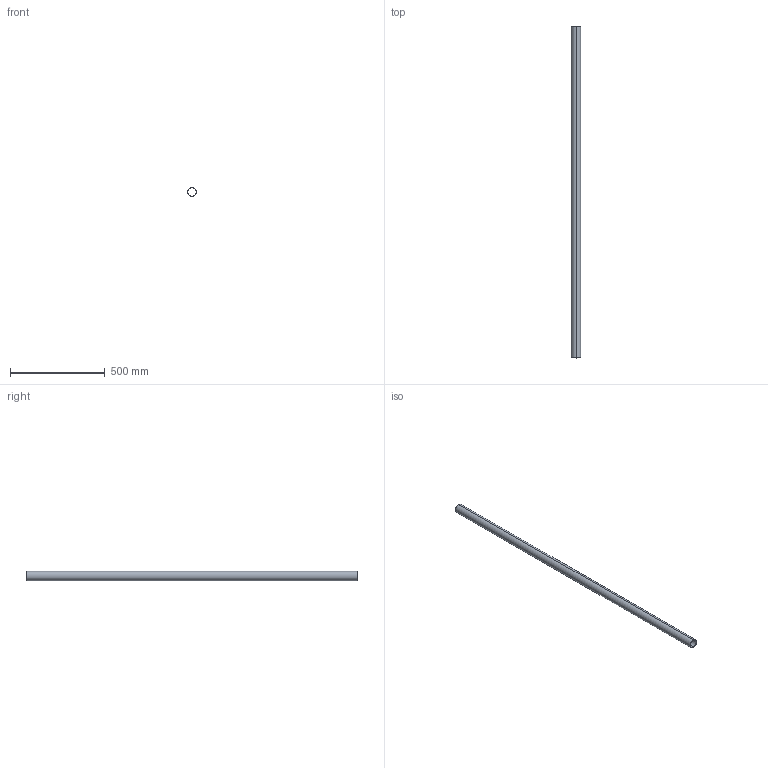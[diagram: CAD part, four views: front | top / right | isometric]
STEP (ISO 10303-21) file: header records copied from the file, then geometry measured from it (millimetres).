
FILE_DESCRIPTION (( 'STEP AP214' ), '1' );
FILE_NAME ('CCJ029-REP.215 - MAIN COURANTE GARDE CORPS B4-C4.STEP', '2024-01-10T14:57:57', ( '' ), ( '' ), 'SwSTEP 2.0', 'SolidWorks 2021', '' );
FILE_SCHEMA (( 'AUTOMOTIVE_DESIGN' ));
Length unit declared in the file: millimetre
Products named in the file (1): CCJ029-REP.215 - MAIN COURANTE GARDE CORPS B4-C4
Bounding box: 48.3 x 1748 x 48.3 mm (x, y, z)
Volume: 652500.5 mm3; surface area: 502670 mm2
Topology: 1 solids, 1 shells, 6 faces, 12 edges, 8 vertices
Faces by surface type: cylinder 4, plane 2
Entity records: 202 total; most frequent: DIRECTION 34, CARTESIAN_POINT 27, ORIENTED_EDGE 24, AXIS2_PLACEMENT_3D 15, EDGE_CURVE 12, VERTEX_POINT 8, CIRCLE 8, EDGE_LOOP 8
